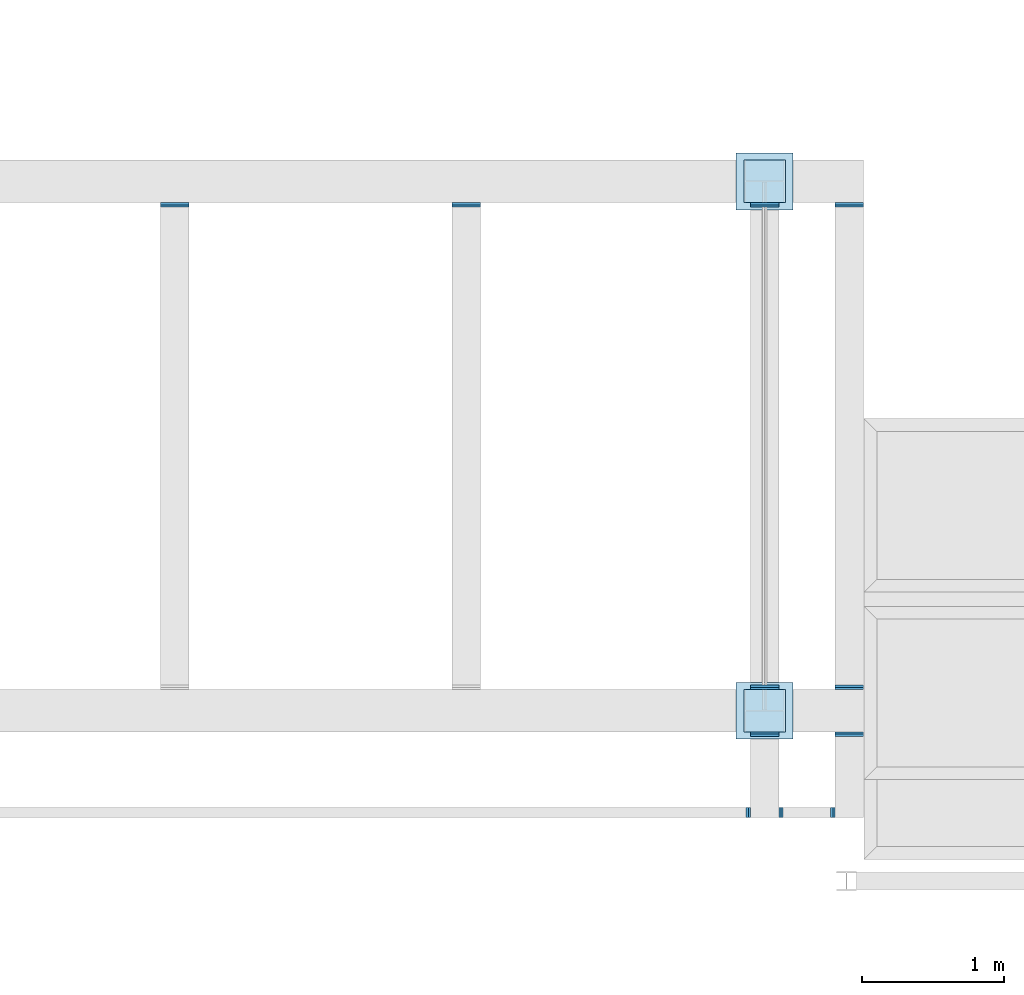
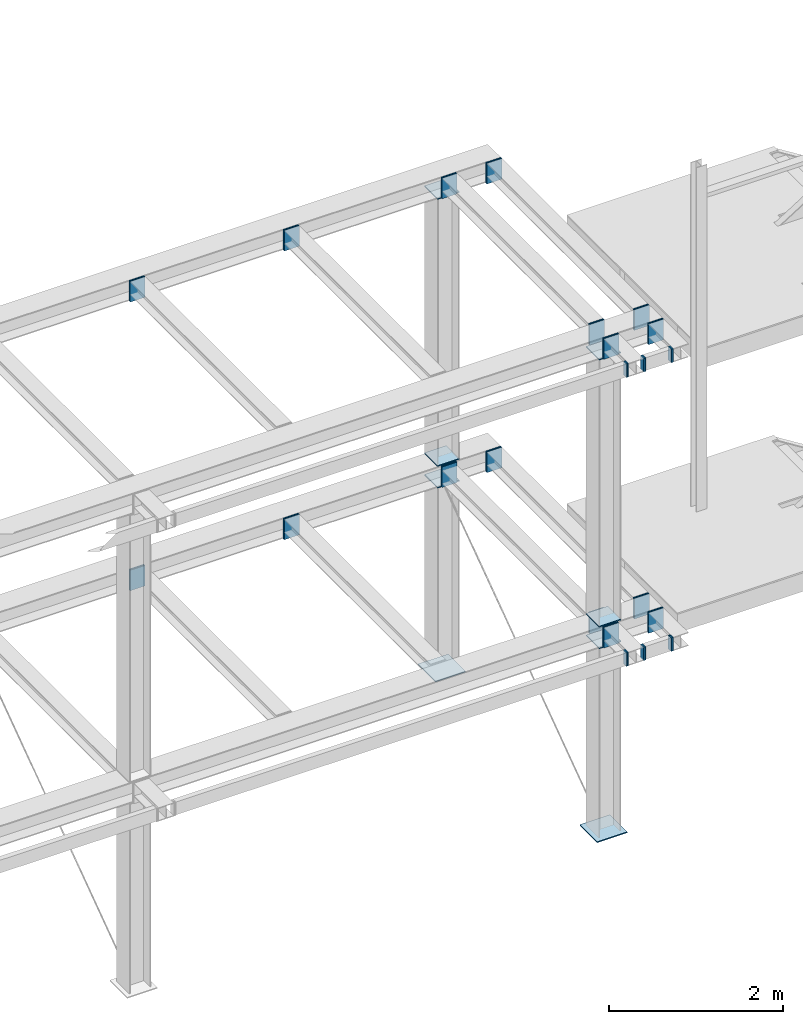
# One storey, part 16 of 24: 52 plates.
"""IFC2X3 building model written with IfcOpenShell, lengths in metres."""

from ifc_helpers import new_model, entity, si_unit, converted_unit, derived_unit, frame, origin, place, context, subcontext, project, spatial, faceted_brep, material, element, save


model = new_model("IFC2X3")

# Units and contexts
model_context = context("Model", 3, precision=1e-05, world=origin())
body_context = subcontext(model_context, "Body", "Model", "MODEL_VIEW")
ifc_project = project(units=[si_unit("LENGTHUNIT", "METRE"), si_unit("AREAUNIT", "SQUARE_METRE"), si_unit("VOLUMEUNIT", "CUBIC_METRE"), si_unit("MASSUNIT", "GRAM", prefix="KILO"), converted_unit("PLANEANGLEUNIT", "DEGREE", entity("IfcPlaneAngleMeasure", 0.0174532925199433), si_unit("PLANEANGLEUNIT", "RADIAN"), dimensions=[0, 0, 0, 0, 0, 0, 0]), derived_unit("THERMALTRANSMITTANCEUNIT", [(si_unit("POWERUNIT", "WATT"), 1), (si_unit("THERMODYNAMICTEMPERATUREUNIT", "KELVIN"), -1), (si_unit("LENGTHUNIT", "METRE"), -2)]), derived_unit("VOLUMETRICFLOWRATEUNIT", [(si_unit("LENGTHUNIT", "METRE"), 3), (converted_unit("TIMEUNIT", "hour", entity("IfcTimeMeasure", 3600.0), si_unit("TIMEUNIT", "SECOND"), dimensions=[0, 0, 1, 0, 0, 0, 0]), -1), (si_unit("LENGTHUNIT", "METRE"), -1)])], contexts=[model_context])

# Site, building, storey
site_placement = place(None, origin())
site = spatial("IfcSite", under=ifc_project, at=site_placement, Name="TWP_Speiseverteilzentrum SBW VZ II", CompositionType="ELEMENT")
building_placement = place(site_placement, origin())
building = spatial("IfcBuilding", under=site, at=building_placement, Name="Speiseverteilzentrum SBW VZ II", CompositionType="ELEMENT")
storey_placement = place(building_placement, frame((0.0, 0.0, 0.6957)))
storey = spatial("IfcBuildingStorey", under=building, at=storey_placement, Name="EG_Technik_FFB", CompositionType="ELEMENT", Elevation=0.6957)

# Plates
ifc_material_1 = material(Name="S235")
plate_1_placement = place(storey_placement, frame((55.75, 91.0349999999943, 3.34)))
element("IfcPlate", 1, at=plate_1_placement, inside=storey, material=ifc_material_1, Name="Stirnplatte", ObjectType="PLATE", context=body_context, shape_type="Brep", body=[
    faceted_brep([(0.0, 0.0, 0.0), (0.0, 0.015, 0.0), (0.0, 0.015, 0.29), (0.0, 0.0, 0.29), (0.2, 0.0, 0.0), (0.2, 0.015, 0.0), (0.2, 0.0, 0.29), (0.2, 0.015, 0.29)], [[[0, 1, 2, 3]], [[0, 4, 5, 1]], [[4, 6, 7, 5]], [[6, 3, 2, 7]], [[6, 4, 0, 3]], [[2, 1, 5, 7]]], orient=[[False], [False], [False], [False], [False], [False]]),
])
ifc_material_2 = material(Name="S235")
plate_2_placement = place(storey_placement, frame((55.75, 91.0199999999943, 3.34)))
element("IfcPlate", 2, at=plate_2_placement, inside=storey, material=ifc_material_2, Name="Stirnplatte", ObjectType="PLATE", context=body_context, shape_type="Brep", body=[
    faceted_brep([(0.0, 0.0, 0.0), (0.0, 0.015, 0.0), (0.0, 0.015, 0.29), (0.0, 0.0, 0.29), (0.2, 0.0, 0.0), (0.2, 0.015, 0.0), (0.2, 0.0, 0.29), (0.2, 0.015, 0.29)], [[[0, 1, 2, 3]], [[0, 4, 5, 1]], [[4, 6, 7, 5]], [[6, 3, 2, 7]], [[6, 4, 0, 3]], [[2, 1, 5, 7]]], orient=[[False], [False], [False], [False], [False], [False]]),
])
ifc_material_3 = material(Name="S235")
plate_3_placement = place(storey_placement, frame((55.75, 91.0349999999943, 7.4)))
element("IfcPlate", 3, at=plate_3_placement, inside=storey, material=ifc_material_3, Name="Stirnplatte", ObjectType="PLATE", context=body_context, shape_type="Brep", body=[
    faceted_brep([(0.0, 0.0, 0.0), (0.0, 0.015, 0.0), (0.0, 0.015, 0.29), (0.0, 0.0, 0.29), (0.2, 0.0, 0.0), (0.2, 0.015, 0.0), (0.2, 0.0, 0.29), (0.2, 0.015, 0.29)], [[[0, 1, 2, 3]], [[0, 4, 5, 1]], [[4, 6, 7, 5]], [[6, 3, 2, 7]], [[6, 4, 0, 3]], [[2, 1, 5, 7]]], orient=[[False], [False], [False], [False], [False], [False]]),
])
ifc_material_4 = material(Name="S235")
plate_4_placement = place(storey_placement, frame((55.75, 91.0199999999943, 7.4)))
element("IfcPlate", 4, at=plate_4_placement, inside=storey, material=ifc_material_4, Name="Stirnplatte", ObjectType="PLATE", context=body_context, shape_type="Brep", body=[
    faceted_brep([(0.0, 0.0, 0.0), (0.0, 0.015, 0.0), (0.0, 0.015, 0.29), (0.0, 0.0, 0.29), (0.2, 0.0, 0.0), (0.2, 0.015, 0.0), (0.2, 0.0, 0.29), (0.2, 0.015, 0.29)], [[[0, 1, 2, 3]], [[0, 4, 5, 1]], [[4, 6, 7, 5]], [[6, 3, 2, 7]], [[6, 4, 0, 3]], [[2, 1, 5, 7]]], orient=[[False], [False], [False], [False], [False], [False]]),
])
ifc_material_5 = material(Name="S235")
plate_5_placement = place(storey_placement, frame((57.8, 91.0349999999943, 3.34)))
element("IfcPlate", 5, at=plate_5_placement, inside=storey, material=ifc_material_5, Name="Stirnplatte", ObjectType="PLATE", context=body_context, shape_type="Brep", body=[
    faceted_brep([(0.0, 0.0, 0.0), (0.0, 0.015, 0.0), (0.0, 0.015, 0.29), (0.0, 0.0, 0.29), (0.2, 0.0, 0.0), (0.2, 0.015, 0.0), (0.2, 0.0, 0.29), (0.2, 0.015, 0.29)], [[[0, 1, 2, 3]], [[0, 4, 5, 1]], [[4, 6, 7, 5]], [[6, 3, 2, 7]], [[6, 4, 0, 3]], [[2, 1, 5, 7]]], orient=[[False], [False], [False], [False], [False], [False]]),
])
ifc_material_6 = material(Name="S235")
plate_6_placement = place(storey_placement, frame((57.8, 91.0199999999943, 3.34)))
element("IfcPlate", 6, at=plate_6_placement, inside=storey, material=ifc_material_6, Name="Stirnplatte", ObjectType="PLATE", context=body_context, shape_type="Brep", body=[
    faceted_brep([(0.0, 0.0, 0.0), (0.0, 0.015, 0.0), (0.0, 0.015, 0.29), (0.0, 0.0, 0.29), (0.2, 0.0, 0.0), (0.2, 0.015, 0.0), (0.2, 0.0, 0.29), (0.2, 0.015, 0.29)], [[[0, 1, 2, 3]], [[0, 4, 5, 1]], [[4, 6, 7, 5]], [[6, 3, 2, 7]], [[6, 4, 0, 3]], [[2, 1, 5, 7]]], orient=[[False], [False], [False], [False], [False], [False]]),
])
ifc_material_7 = material(Name="S235")
plate_7_placement = place(storey_placement, frame((57.8, 91.0349999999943, 7.4)))
element("IfcPlate", 7, at=plate_7_placement, inside=storey, material=ifc_material_7, Name="Stirnplatte", ObjectType="PLATE", context=body_context, shape_type="Brep", body=[
    faceted_brep([(0.0, 0.0, 0.0), (0.0, 0.015, 0.0), (0.0, 0.015, 0.29), (0.0, 0.0, 0.29), (0.2, 0.0, 0.0), (0.2, 0.015, 0.0), (0.2, 0.0, 0.29), (0.2, 0.015, 0.29)], [[[0, 1, 2, 3]], [[0, 4, 5, 1]], [[4, 6, 7, 5]], [[6, 3, 2, 7]], [[6, 4, 0, 3]], [[2, 1, 5, 7]]], orient=[[False], [False], [False], [False], [False], [False]]),
])
ifc_material_8 = material(Name="S235")
plate_8_placement = place(storey_placement, frame((57.8, 91.0199999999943, 7.4)))
element("IfcPlate", 8, at=plate_8_placement, inside=storey, material=ifc_material_8, Name="Stirnplatte", ObjectType="PLATE", context=body_context, shape_type="Brep", body=[
    faceted_brep([(0.0, 0.0, 0.0), (0.0, 0.015, 0.0), (0.0, 0.015, 0.29), (0.0, 0.0, 0.29), (0.2, 0.0, 0.0), (0.2, 0.015, 0.0), (0.2, 0.0, 0.29), (0.2, 0.015, 0.29)], [[[0, 1, 2, 3]], [[0, 4, 5, 1]], [[4, 6, 7, 5]], [[6, 3, 2, 7]], [[6, 4, 0, 3]], [[2, 1, 5, 7]]], orient=[[False], [False], [False], [False], [False], [False]]),
])
ifc_material_9 = material(Name="S235")
plate_9_placement = place(storey_placement, frame((59.9, 87.3099999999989, 3.34)))
element("IfcPlate", 9, at=plate_9_placement, inside=storey, material=ifc_material_9, Name="Kragarm", ObjectType="PLATE", context=body_context, shape_type="Brep", body=[
    faceted_brep([(0.0, 0.0, 0.0), (0.0, 0.015, 0.0), (0.0, 0.015, 0.29), (0.0, 0.0, 0.29), (0.2, 0.0, 0.0), (0.2, 0.015, 0.0), (0.2, 0.0, 0.29), (0.2, 0.015, 0.29)], [[[0, 1, 2, 3]], [[0, 4, 5, 1]], [[4, 6, 7, 5]], [[6, 3, 2, 7]], [[6, 4, 0, 3]], [[2, 1, 5, 7]]], orient=[[False], [False], [False], [False], [False], [False]]),
])
ifc_material_10 = material(Name="S235")
plate_10_placement = place(storey_placement, frame((59.9, 87.2949999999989, 3.34)))
element("IfcPlate", 10, at=plate_10_placement, inside=storey, material=ifc_material_10, Name="Kragarm", ObjectType="PLATE", context=body_context, shape_type="Brep", body=[
    faceted_brep([(0.0, 0.0, 0.0), (0.0, 0.015, 0.0), (0.0, 0.015, 0.29), (0.0, 0.0, 0.29), (0.2, 0.0, 0.0), (0.2, 0.015, 0.0), (0.2, 0.0, 0.29), (0.2, 0.015, 0.29)], [[[0, 1, 2, 3]], [[0, 4, 5, 1]], [[4, 6, 7, 5]], [[6, 3, 2, 7]], [[6, 4, 0, 3]], [[2, 1, 5, 7]]], orient=[[False], [False], [False], [False], [False], [False]]),
])
ifc_material_11 = material(Name="S235")
plate_11_placement = place(storey_placement, frame((59.9, 87.3099999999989, 7.4)))
element("IfcPlate", 11, at=plate_11_placement, inside=storey, material=ifc_material_11, Name="Kragarm", ObjectType="PLATE", context=body_context, shape_type="Brep", body=[
    faceted_brep([(0.0, 0.0, 0.0), (0.0, 0.015, 0.0), (0.0, 0.015, 0.29), (0.0, 0.0, 0.29), (0.2, 0.0, 0.0), (0.2, 0.015, 0.0), (0.2, 0.0, 0.29), (0.2, 0.015, 0.29)], [[[0, 1, 2, 3]], [[0, 4, 5, 1]], [[4, 6, 7, 5]], [[6, 3, 2, 7]], [[6, 4, 0, 3]], [[2, 1, 5, 7]]], orient=[[False], [False], [False], [False], [False], [False]]),
])
ifc_material_12 = material(Name="S235")
plate_12_placement = place(storey_placement, frame((59.9, 87.2949999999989, 7.4)))
element("IfcPlate", 12, at=plate_12_placement, inside=storey, material=ifc_material_12, Name="Kragarm", ObjectType="PLATE", context=body_context, shape_type="Brep", body=[
    faceted_brep([(0.0, 0.0, 0.0), (0.0, 0.015, 0.0), (0.0, 0.015, 0.29), (0.0, 0.0, 0.29), (0.2, 0.0, 0.0), (0.2, 0.015, 0.0), (0.2, 0.0, 0.29), (0.2, 0.015, 0.29)], [[[0, 1, 2, 3]], [[0, 4, 5, 1]], [[4, 6, 7, 5]], [[6, 3, 2, 7]], [[6, 4, 0, 3]], [[2, 1, 5, 7]]], orient=[[False], [False], [False], [False], [False], [False]]),
])
ifc_material_13 = material(Name="S235")
plate_13_placement = place(storey_placement, frame((59.8849999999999, 86.724999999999, 3.44)))
element("IfcPlate", 13, at=plate_13_placement, inside=storey, material=ifc_material_13, Name="Stirnplatte", ObjectType="PLATE", context=body_context, shape_type="Brep", body=[
    faceted_brep([(0.0, 0.07, 0.0), (0.015, 0.07, 0.0), (0.015, 0.07, 0.19), (0.0, 0.07, 0.19), (0.0, 0.0, 0.0), (0.015, 0.0, 0.0), (0.0, 0.0, 0.19), (0.015, 0.0, 0.19)], [[[0, 1, 2, 3]], [[0, 4, 5, 1]], [[4, 6, 7, 5]], [[6, 3, 2, 7]], [[6, 4, 0, 3]], [[2, 1, 5, 7]]], orient=[[False], [False], [False], [False], [False], [False]]),
])
ifc_material_14 = material(Name="S235")
plate_14_placement = place(storey_placement, frame((59.8699999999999, 86.724999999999, 3.44)))
element("IfcPlate", 14, at=plate_14_placement, inside=storey, material=ifc_material_14, Name="Stirnplatte", ObjectType="PLATE", context=body_context, shape_type="Brep", body=[
    faceted_brep([(0.0, 0.07, 0.0), (0.015, 0.07, 0.0), (0.015, 0.07, 0.19), (0.0, 0.07, 0.19), (0.0, 0.0, 0.0), (0.015, 0.0, 0.0), (0.0, 0.0, 0.19), (0.015, 0.0, 0.19)], [[[0, 1, 2, 3]], [[0, 4, 5, 1]], [[4, 6, 7, 5]], [[6, 3, 2, 7]], [[6, 4, 0, 3]], [[2, 1, 5, 7]]], orient=[[False], [False], [False], [False], [False], [False]]),
])
ifc_material_15 = material(Name="S235")
plate_15_placement = place(storey_placement, frame((59.8849999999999, 86.7249999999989, 7.5)))
element("IfcPlate", 15, at=plate_15_placement, inside=storey, material=ifc_material_15, Name="Stirnplatte", ObjectType="PLATE", context=body_context, shape_type="Brep", body=[
    faceted_brep([(0.0, 0.07, 0.0), (0.015, 0.07, 0.0), (0.015, 0.07, 0.19), (0.0, 0.07, 0.19), (0.0, 0.0, 0.0), (0.015, 0.0, 0.0), (0.0, 0.0, 0.19), (0.015, 0.0, 0.19)], [[[0, 1, 2, 3]], [[0, 4, 5, 1]], [[4, 6, 7, 5]], [[6, 3, 2, 7]], [[6, 4, 0, 3]], [[2, 1, 5, 7]]], orient=[[False], [False], [False], [False], [False], [False]]),
])
ifc_material_16 = material(Name="S235")
plate_16_placement = place(storey_placement, frame((59.8699999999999, 86.7249999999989, 7.5)))
element("IfcPlate", 16, at=plate_16_placement, inside=storey, material=ifc_material_16, Name="Stirnplatte", ObjectType="PLATE", context=body_context, shape_type="Brep", body=[
    faceted_brep([(0.0, 0.07, 0.0), (0.015, 0.07, 0.0), (0.015, 0.07, 0.19), (0.0, 0.07, 0.19), (0.0, 0.0, 0.0), (0.015, 0.0, 0.0), (0.0, 0.0, 0.19), (0.015, 0.0, 0.19)], [[[0, 1, 2, 3]], [[0, 4, 5, 1]], [[4, 6, 7, 5]], [[6, 3, 2, 7]], [[6, 4, 0, 3]], [[2, 1, 5, 7]]], orient=[[False], [False], [False], [False], [False], [False]]),
])
ifc_material_17 = material(Name="S235")
plate_17_placement = place(storey_placement, frame((60.115, 86.7249999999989, 3.44)))
element("IfcPlate", 17, at=plate_17_placement, inside=storey, material=ifc_material_17, Name="Stirnplatte", ObjectType="PLATE", context=body_context, shape_type="Brep", body=[
    faceted_brep([(0.0, 0.07, 0.0), (0.015, 0.07, 0.0), (0.015, 0.07, 0.19), (0.0, 0.07, 0.19), (0.0, 0.0, 0.0), (0.015, 0.0, 0.0), (0.0, 0.0, 0.19), (0.015, 0.0, 0.19)], [[[0, 1, 2, 3]], [[0, 4, 5, 1]], [[4, 6, 7, 5]], [[6, 3, 2, 7]], [[6, 4, 0, 3]], [[2, 1, 5, 7]]], orient=[[False], [False], [False], [False], [False], [False]]),
])
ifc_material_18 = material(Name="S235")
plate_18_placement = place(storey_placement, frame((60.1, 86.7249999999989, 3.44)))
element("IfcPlate", 18, at=plate_18_placement, inside=storey, material=ifc_material_18, Name="Stirnplatte", ObjectType="PLATE", context=body_context, shape_type="Brep", body=[
    faceted_brep([(0.0, 0.07, 0.0), (0.015, 0.07, 0.0), (0.015, 0.07, 0.19), (0.0, 0.07, 0.19), (0.0, 0.0, 0.0), (0.015, 0.0, 0.0), (0.0, 0.0, 0.19), (0.015, 0.0, 0.19)], [[[0, 1, 2, 3]], [[0, 4, 5, 1]], [[4, 6, 7, 5]], [[6, 3, 2, 7]], [[6, 4, 0, 3]], [[2, 1, 5, 7]]], orient=[[False], [False], [False], [False], [False], [False]]),
])
ifc_material_19 = material(Name="S235")
plate_19_placement = place(storey_placement, frame((60.115, 86.7249999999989, 7.5)))
element("IfcPlate", 19, at=plate_19_placement, inside=storey, material=ifc_material_19, Name="Stirnplatte", ObjectType="PLATE", context=body_context, shape_type="Brep", body=[
    faceted_brep([(0.0, 0.07, 0.0), (0.015, 0.07, 0.0), (0.015, 0.07, 0.19), (0.0, 0.07, 0.19), (0.0, 0.0, 0.0), (0.015, 0.0, 0.0), (0.0, 0.0, 0.19), (0.015, 0.0, 0.19)], [[[0, 1, 2, 3]], [[0, 4, 5, 1]], [[4, 6, 7, 5]], [[6, 3, 2, 7]], [[6, 4, 0, 3]], [[2, 1, 5, 7]]], orient=[[False], [False], [False], [False], [False], [False]]),
])
ifc_material_20 = material(Name="S235")
plate_20_placement = place(storey_placement, frame((60.1, 86.7249999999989, 7.5)))
element("IfcPlate", 20, at=plate_20_placement, inside=storey, material=ifc_material_20, Name="Stirnplatte", ObjectType="PLATE", context=body_context, shape_type="Brep", body=[
    faceted_brep([(0.0, 0.07, 0.0), (0.015, 0.07, 0.0), (0.015, 0.07, 0.19), (0.0, 0.07, 0.19), (0.0, 0.0, 0.0), (0.015, 0.0, 0.0), (0.0, 0.0, 0.19), (0.015, 0.0, 0.19)], [[[0, 1, 2, 3]], [[0, 4, 5, 1]], [[4, 6, 7, 5]], [[6, 3, 2, 7]], [[6, 4, 0, 3]], [[2, 1, 5, 7]]], orient=[[False], [False], [False], [False], [False], [False]]),
])
ifc_material_21 = material(Name="S235")
plate_21_placement = place(storey_placement, frame((59.9, 87.6249999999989, 7.4)))
element("IfcPlate", 21, at=plate_21_placement, inside=storey, material=ifc_material_21, Name="Stirnplatte", context=body_context, shape_type="Brep", body=[
    faceted_brep([(0.2, 0.015, 0.0), (0.2, 0.0, 0.0), (0.2, 0.0, 0.29), (0.2, 0.015, 0.29), (0.0, 0.015, 0.0), (0.0, 0.0, 0.0), (0.0, 0.015, 0.29), (0.0, 0.0, 0.29)], [[[0, 1, 2, 3]], [[0, 4, 5, 1]], [[4, 6, 7, 5]], [[6, 3, 2, 7]], [[6, 4, 0, 3]], [[2, 1, 5, 7]]], orient=[[False], [False], [False], [False], [False], [False]]),
])
ifc_material_22 = material(Name="S235")
plate_22_placement = place(storey_placement, frame((59.9, 87.6399999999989, 7.4)))
element("IfcPlate", 22, at=plate_22_placement, inside=storey, material=ifc_material_22, Name="Stirnplatte", context=body_context, shape_type="Brep", body=[
    faceted_brep([(0.2, 0.015, 0.0), (0.2, 0.0, 0.0), (0.2, 0.0, 0.29), (0.2, 0.015, 0.29), (0.0, 0.015, 0.0), (0.0, 0.0, 0.0), (0.0, 0.015, 0.29), (0.0, 0.0, 0.29)], [[[0, 1, 2, 3]], [[0, 4, 5, 1]], [[4, 6, 7, 5]], [[6, 3, 2, 7]], [[6, 4, 0, 3]], [[2, 1, 5, 7]]], orient=[[False], [False], [False], [False], [False], [False]]),
])
ifc_material_23 = material(Name="S235")
plate_23_placement = place(storey_placement, frame((59.9, 91.0199999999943, 7.4)))
element("IfcPlate", 23, at=plate_23_placement, inside=storey, material=ifc_material_23, Name="Stirnplatte", context=body_context, shape_type="Brep", body=[
    faceted_brep([(0.2, 0.015, 0.0), (0.2, 0.0, 0.0), (0.2, 0.0, 0.29), (0.2, 0.015, 0.29), (0.0, 0.015, 0.0), (0.0, 0.0, 0.0), (0.0, 0.015, 0.29), (0.0, 0.0, 0.29)], [[[0, 1, 2, 3]], [[0, 4, 5, 1]], [[4, 6, 7, 5]], [[6, 3, 2, 7]], [[6, 4, 0, 3]], [[2, 1, 5, 7]]], orient=[[False], [False], [False], [False], [False], [False]]),
])
ifc_material_24 = material(Name="S235")
plate_24_placement = place(storey_placement, frame((59.9, 91.0349999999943, 7.4)))
element("IfcPlate", 24, at=plate_24_placement, inside=storey, material=ifc_material_24, Name="Stirnplatte", context=body_context, shape_type="Brep", body=[
    faceted_brep([(0.2, 0.015, 0.0), (0.2, 0.0, 0.0), (0.2, 0.0, 0.29), (0.2, 0.015, 0.29), (0.0, 0.015, 0.0), (0.0, 0.0, 0.0), (0.0, 0.015, 0.29), (0.0, 0.0, 0.29)], [[[0, 1, 2, 3]], [[0, 4, 5, 1]], [[4, 6, 7, 5]], [[6, 3, 2, 7]], [[6, 4, 0, 3]], [[2, 1, 5, 7]]], orient=[[False], [False], [False], [False], [False], [False]]),
])
ifc_material_25 = material(Name="S235")
plate_25_placement = place(storey_placement, frame((59.9, 87.6399999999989, 3.34)))
element("IfcPlate", 25, at=plate_25_placement, inside=storey, material=ifc_material_25, Name="Stirnplatte", ObjectType="PLATE", context=body_context, shape_type="Brep", body=[
    faceted_brep([(0.2, 0.015, 0.0), (0.2, 0.0, 0.0), (0.2, 0.0, 0.29), (0.2, 0.015, 0.29), (0.0, 0.015, 0.0), (0.0, 0.0, 0.0), (0.0, 0.015, 0.29), (0.0, 0.0, 0.29)], [[[0, 1, 2, 3]], [[0, 4, 5, 1]], [[4, 6, 7, 5]], [[6, 3, 2, 7]], [[6, 4, 0, 3]], [[2, 1, 5, 7]]], orient=[[False], [False], [False], [False], [False], [False]]),
])
ifc_material_26 = material(Name="S235")
plate_26_placement = place(storey_placement, frame((59.9, 87.6249999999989, 3.34)))
element("IfcPlate", 26, at=plate_26_placement, inside=storey, material=ifc_material_26, Name="Stirnplatte", ObjectType="PLATE", context=body_context, shape_type="Brep", body=[
    faceted_brep([(0.2, 0.015, 0.0), (0.2, 0.0, 0.0), (0.2, 0.0, 0.29), (0.2, 0.015, 0.29), (0.0, 0.015, 0.0), (0.0, 0.0, 0.0), (0.0, 0.015, 0.29), (0.0, 0.0, 0.29)], [[[0, 1, 2, 3]], [[0, 4, 5, 1]], [[4, 6, 7, 5]], [[6, 3, 2, 7]], [[6, 4, 0, 3]], [[2, 1, 5, 7]]], orient=[[False], [False], [False], [False], [False], [False]]),
])
ifc_material_27 = material(Name="S235")
plate_27_placement = place(storey_placement, frame((59.9, 91.0349999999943, 3.34)))
element("IfcPlate", 27, at=plate_27_placement, inside=storey, material=ifc_material_27, Name="Stirnplatte", ObjectType="PLATE", context=body_context, shape_type="Brep", body=[
    faceted_brep([(0.2, 0.015, 0.0), (0.2, 0.0, 0.0), (0.2, 0.0, 0.29), (0.2, 0.015, 0.29), (0.0, 0.015, 0.0), (0.0, 0.0, 0.0), (0.0, 0.015, 0.29), (0.0, 0.0, 0.29)], [[[0, 1, 2, 3]], [[0, 4, 5, 1]], [[4, 6, 7, 5]], [[6, 3, 2, 7]], [[6, 4, 0, 3]], [[2, 1, 5, 7]]], orient=[[False], [False], [False], [False], [False], [False]]),
])
ifc_material_28 = material(Name="S235")
plate_28_placement = place(storey_placement, frame((59.9, 91.0199999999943, 3.34)))
element("IfcPlate", 28, at=plate_28_placement, inside=storey, material=ifc_material_28, Name="Stirnplatte", ObjectType="PLATE", context=body_context, shape_type="Brep", body=[
    faceted_brep([(0.2, 0.015, 0.0), (0.2, 0.0, 0.0), (0.2, 0.0, 0.29), (0.2, 0.015, 0.29), (0.0, 0.015, 0.0), (0.0, 0.0, 0.0), (0.0, 0.015, 0.29), (0.0, 0.0, 0.29)], [[[0, 1, 2, 3]], [[0, 4, 5, 1]], [[4, 6, 7, 5]], [[6, 3, 2, 7]], [[6, 4, 0, 3]], [[2, 1, 5, 7]]], orient=[[False], [False], [False], [False], [False], [False]]),
])
ifc_material_29 = material(Name="S235")
plate_29_placement = place(storey_placement, frame((59.8, 87.2749999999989, 0.649699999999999)))
element("IfcPlate", 29, at=plate_29_placement, inside=storey, material=ifc_material_29, Name="Fußplatte", ObjectType="PLATE", context=body_context, shape_type="Brep", body=[
    faceted_brep([(0.0, 0.4, 0.0), (0.0, 0.4, 0.015), (0.4, 0.4, 0.015), (0.4, 0.4, 0.0), (0.0, 0.0, 0.0), (0.0, 0.0, 0.015), (0.4, 0.0, 0.0), (0.4, 0.0, 0.015)], [[[0, 1, 2, 3]], [[0, 4, 5, 1]], [[4, 6, 7, 5]], [[6, 3, 2, 7]], [[6, 4, 0, 3]], [[2, 1, 5, 7]]], orient=[[False], [False], [False], [False], [False], [False]]),
])
ifc_material_30 = material(Name="S235")
plate_30_placement = place(storey_placement, frame((59.8, 90.9999999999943, 0.649699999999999)))
element("IfcPlate", 30, at=plate_30_placement, inside=storey, material=ifc_material_30, Name="Fußplatte", ObjectType="PLATE", context=body_context, shape_type="Brep", body=[
    faceted_brep([(0.0, 0.4, 0.0), (0.0, 0.4, 0.015), (0.4, 0.4, 0.015), (0.4, 0.4, 0.0), (0.0, 0.0, 0.0), (0.0, 0.0, 0.015), (0.4, 0.0, 0.0), (0.4, 0.0, 0.015)], [[[0, 1, 2, 3]], [[0, 4, 5, 1]], [[4, 6, 7, 5]], [[6, 3, 2, 7]], [[6, 4, 0, 3]], [[2, 1, 5, 7]]], orient=[[False], [False], [False], [False], [False], [False]]),
])
ifc_material_31 = material(Name="S235")
plate_31_placement = place(storey_placement, frame((59.855, 87.3249999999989, 3.325)))
element("IfcPlate", 31, at=plate_31_placement, inside=storey, material=ifc_material_31, Name="Kopfplatte", ObjectType="PLATE", context=body_context, shape_type="Brep", body=[
    faceted_brep([(0.29, 0.0, 0.015), (0.29, 0.0, 0.0), (0.29, 0.3, 0.0), (0.29, 0.3, 0.015), (0.0, 0.0, 0.015), (0.0, 0.0, 0.0), (0.0, 0.3, 0.015), (0.0, 0.3, 0.0)], [[[0, 1, 2, 3]], [[0, 4, 5, 1]], [[4, 6, 7, 5]], [[6, 3, 2, 7]], [[6, 4, 0, 3]], [[2, 1, 5, 7]]], orient=[[False], [False], [False], [False], [False], [False]]),
])
ifc_material_32 = material(Name="S235")
plate_32_placement = place(storey_placement, frame((59.855, 91.0499999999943, 3.325)))
element("IfcPlate", 32, at=plate_32_placement, inside=storey, material=ifc_material_32, Name="Kopfplatte", ObjectType="PLATE", context=body_context, shape_type="Brep", body=[
    faceted_brep([(0.29, 0.0, 0.015), (0.29, 0.0, 0.0), (0.29, 0.3, 0.0), (0.29, 0.3, 0.015), (0.0, 0.0, 0.015), (0.0, 0.0, 0.0), (0.0, 0.3, 0.015), (0.0, 0.3, 0.0)], [[[0, 1, 2, 3]], [[0, 4, 5, 1]], [[4, 6, 7, 5]], [[6, 3, 2, 7]], [[6, 4, 0, 3]], [[2, 1, 5, 7]]], orient=[[False], [False], [False], [False], [False], [False]]),
])
ifc_material_33 = material(Name="S235")
plate_33_placement = place(storey_placement, frame((59.855, 87.3249999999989, 3.63)))
element("IfcPlate", 33, at=plate_33_placement, inside=storey, material=ifc_material_33, Name="Fußplatte", ObjectType="PLATE", context=body_context, shape_type="Brep", body=[
    faceted_brep([(0.29, 0.0, 0.015), (0.29, 0.0, 0.0), (0.29, 0.3, 0.0), (0.29, 0.3, 0.015), (0.0, 0.0, 0.015), (0.0, 0.0, 0.0), (0.0, 0.3, 0.015), (0.0, 0.3, 0.0)], [[[0, 1, 2, 3]], [[0, 4, 5, 1]], [[4, 6, 7, 5]], [[6, 3, 2, 7]], [[6, 4, 0, 3]], [[2, 1, 5, 7]]], orient=[[False], [False], [False], [False], [False], [False]]),
])
ifc_material_34 = material(Name="S235")
plate_34_placement = place(storey_placement, frame((59.855, 91.0499999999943, 3.63)))
element("IfcPlate", 34, at=plate_34_placement, inside=storey, material=ifc_material_34, Name="Fußplatte", ObjectType="PLATE", context=body_context, shape_type="Brep", body=[
    faceted_brep([(0.29, 0.0, 0.015), (0.29, 0.0, 0.0), (0.29, 0.3, 0.0), (0.29, 0.3, 0.015), (0.0, 0.0, 0.015), (0.0, 0.0, 0.0), (0.0, 0.3, 0.015), (0.0, 0.3, 0.0)], [[[0, 1, 2, 3]], [[0, 4, 5, 1]], [[4, 6, 7, 5]], [[6, 3, 2, 7]], [[6, 4, 0, 3]], [[2, 1, 5, 7]]], orient=[[False], [False], [False], [False], [False], [False]]),
])
ifc_material_35 = material(Name="S235")
plate_35_placement = place(storey_placement, frame((59.855, 87.3249999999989, 7.385)))
element("IfcPlate", 35, at=plate_35_placement, inside=storey, material=ifc_material_35, Name="Kopfplatte", ObjectType="PLATE", context=body_context, shape_type="Brep", body=[
    faceted_brep([(0.29, 0.0, 0.015), (0.29, 0.0, 0.0), (0.29, 0.3, 0.0), (0.29, 0.3, 0.015), (0.0, 0.0, 0.015), (0.0, 0.0, 0.0), (0.0, 0.3, 0.015), (0.0, 0.3, 0.0)], [[[0, 1, 2, 3]], [[0, 4, 5, 1]], [[4, 6, 7, 5]], [[6, 3, 2, 7]], [[6, 4, 0, 3]], [[2, 1, 5, 7]]], orient=[[False], [False], [False], [False], [False], [False]]),
])
ifc_material_36 = material(Name="S235")
plate_36_placement = place(storey_placement, frame((59.855, 91.0499999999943, 7.385)))
element("IfcPlate", 36, at=plate_36_placement, inside=storey, material=ifc_material_36, Name="Kopfplatte", ObjectType="PLATE", context=body_context, shape_type="Brep", body=[
    faceted_brep([(0.29, 0.0, 0.015), (0.29, 0.0, 0.0), (0.29, 0.3, 0.0), (0.29, 0.3, 0.015), (0.0, 0.0, 0.015), (0.0, 0.0, 0.0), (0.0, 0.3, 0.015), (0.0, 0.3, 0.0)], [[[0, 1, 2, 3]], [[0, 4, 5, 1]], [[4, 6, 7, 5]], [[6, 3, 2, 7]], [[6, 4, 0, 3]], [[2, 1, 5, 7]]], orient=[[False], [False], [False], [False], [False], [False]]),
])
ifc_material_37 = material(Name="S235")
plate_37_placement = place(storey_placement, frame((60.4949999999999, 87.6399999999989, 3.34)))
element("IfcPlate", 37, at=plate_37_placement, inside=storey, material=ifc_material_37, Name="Stirnplatte", ObjectType="PLATE", context=body_context, shape_type="Brep", body=[
    faceted_brep([(0.0, 0.0, 0.0), (0.0, 0.015, 0.0), (0.0, 0.015, 0.29), (0.0, 0.0, 0.29), (0.2, 0.0, 0.0), (0.2, 0.015, 0.0), (0.2, 0.0, 0.29), (0.2, 0.015, 0.29)], [[[0, 1, 2, 3]], [[0, 4, 5, 1]], [[4, 6, 7, 5]], [[6, 3, 2, 7]], [[6, 4, 0, 3]], [[2, 1, 5, 7]]], orient=[[False], [False], [False], [False], [False], [False]]),
])
ifc_material_38 = material(Name="S235")
plate_38_placement = place(storey_placement, frame((60.4949999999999, 87.6249999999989, 3.34)))
element("IfcPlate", 38, at=plate_38_placement, inside=storey, material=ifc_material_38, Name="Stirnplatte", ObjectType="PLATE", context=body_context, shape_type="Brep", body=[
    faceted_brep([(0.0, 0.0, 0.0), (0.0, 0.015, 0.0), (0.0, 0.015, 0.29), (0.0, 0.0, 0.29), (0.2, 0.0, 0.0), (0.2, 0.015, 0.0), (0.2, 0.0, 0.29), (0.2, 0.015, 0.29)], [[[0, 1, 2, 3]], [[0, 4, 5, 1]], [[4, 6, 7, 5]], [[6, 3, 2, 7]], [[6, 4, 0, 3]], [[2, 1, 5, 7]]], orient=[[False], [False], [False], [False], [False], [False]]),
])
ifc_material_39 = material(Name="S235")
plate_39_placement = place(storey_placement, frame((60.4949999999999, 87.6399999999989, 7.4)))
element("IfcPlate", 39, at=plate_39_placement, inside=storey, material=ifc_material_39, Name="Stirnplatte", ObjectType="PLATE", context=body_context, shape_type="Brep", body=[
    faceted_brep([(0.0, 0.0, 0.0), (0.0, 0.015, 0.0), (0.0, 0.015, 0.29), (0.0, 0.0, 0.29), (0.2, 0.0, 0.0), (0.2, 0.015, 0.0), (0.2, 0.0, 0.29), (0.2, 0.015, 0.29)], [[[0, 1, 2, 3]], [[0, 4, 5, 1]], [[4, 6, 7, 5]], [[6, 3, 2, 7]], [[6, 4, 0, 3]], [[2, 1, 5, 7]]], orient=[[False], [False], [False], [False], [False], [False]]),
])
ifc_material_40 = material(Name="S235")
plate_40_placement = place(storey_placement, frame((60.4949999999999, 87.6249999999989, 7.4)))
element("IfcPlate", 40, at=plate_40_placement, inside=storey, material=ifc_material_40, Name="Stirnplatte", ObjectType="PLATE", context=body_context, shape_type="Brep", body=[
    faceted_brep([(0.0, 0.0, 0.0), (0.0, 0.015, 0.0), (0.0, 0.015, 0.29), (0.0, 0.0, 0.29), (0.2, 0.0, 0.0), (0.2, 0.015, 0.0), (0.2, 0.0, 0.29), (0.2, 0.015, 0.29)], [[[0, 1, 2, 3]], [[0, 4, 5, 1]], [[4, 6, 7, 5]], [[6, 3, 2, 7]], [[6, 4, 0, 3]], [[2, 1, 5, 7]]], orient=[[False], [False], [False], [False], [False], [False]]),
])
ifc_material_41 = material(Name="S235")
plate_41_placement = place(storey_placement, frame((60.495, 91.0349999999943, 3.34)))
element("IfcPlate", 41, at=plate_41_placement, inside=storey, material=ifc_material_41, Name="Stirnplatte", ObjectType="PLATE", context=body_context, shape_type="Brep", body=[
    faceted_brep([(0.0, 0.0, 0.0), (0.0, 0.015, 0.0), (0.0, 0.015, 0.29), (0.0, 0.0, 0.29), (0.2, 0.0, 0.0), (0.2, 0.015, 0.0), (0.2, 0.0, 0.29), (0.2, 0.015, 0.29)], [[[0, 1, 2, 3]], [[0, 4, 5, 1]], [[4, 6, 7, 5]], [[6, 3, 2, 7]], [[6, 4, 0, 3]], [[2, 1, 5, 7]]], orient=[[False], [False], [False], [False], [False], [False]]),
])
ifc_material_42 = material(Name="S235")
plate_42_placement = place(storey_placement, frame((60.495, 91.0199999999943, 3.34)))
element("IfcPlate", 42, at=plate_42_placement, inside=storey, material=ifc_material_42, Name="Stirnplatte", ObjectType="PLATE", context=body_context, shape_type="Brep", body=[
    faceted_brep([(0.0, 0.0, 0.0), (0.0, 0.015, 0.0), (0.0, 0.015, 0.29), (0.0, 0.0, 0.29), (0.2, 0.0, 0.0), (0.2, 0.015, 0.0), (0.2, 0.0, 0.29), (0.2, 0.015, 0.29)], [[[0, 1, 2, 3]], [[0, 4, 5, 1]], [[4, 6, 7, 5]], [[6, 3, 2, 7]], [[6, 4, 0, 3]], [[2, 1, 5, 7]]], orient=[[False], [False], [False], [False], [False], [False]]),
])
ifc_material_43 = material(Name="S235")
plate_43_placement = place(storey_placement, frame((60.495, 91.0349999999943, 7.4)))
element("IfcPlate", 43, at=plate_43_placement, inside=storey, material=ifc_material_43, Name="Stirnplatte", ObjectType="PLATE", context=body_context, shape_type="Brep", body=[
    faceted_brep([(0.0, 0.0, 0.0), (0.0, 0.015, 0.0), (0.0, 0.015, 0.29), (0.0, 0.0, 0.29), (0.2, 0.0, 0.0), (0.2, 0.015, 0.0), (0.2, 0.0, 0.29), (0.2, 0.015, 0.29)], [[[0, 1, 2, 3]], [[0, 4, 5, 1]], [[4, 6, 7, 5]], [[6, 3, 2, 7]], [[6, 4, 0, 3]], [[2, 1, 5, 7]]], orient=[[False], [False], [False], [False], [False], [False]]),
])
ifc_material_44 = material(Name="S235")
plate_44_placement = place(storey_placement, frame((60.495, 91.0199999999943, 7.4)))
element("IfcPlate", 44, at=plate_44_placement, inside=storey, material=ifc_material_44, Name="Stirnplatte", ObjectType="PLATE", context=body_context, shape_type="Brep", body=[
    faceted_brep([(0.0, 0.0, 0.0), (0.0, 0.015, 0.0), (0.0, 0.015, 0.29), (0.0, 0.0, 0.29), (0.2, 0.0, 0.0), (0.2, 0.015, 0.0), (0.2, 0.0, 0.29), (0.2, 0.015, 0.29)], [[[0, 1, 2, 3]], [[0, 4, 5, 1]], [[4, 6, 7, 5]], [[6, 3, 2, 7]], [[6, 4, 0, 3]], [[2, 1, 5, 7]]], orient=[[False], [False], [False], [False], [False], [False]]),
])
ifc_material_45 = material(Name="S235")
plate_45_placement = place(storey_placement, frame((60.4949999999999, 87.3099999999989, 3.34)))
element("IfcPlate", 45, at=plate_45_placement, inside=storey, material=ifc_material_45, Name="Kragarm", ObjectType="PLATE", context=body_context, shape_type="Brep", body=[
    faceted_brep([(0.0, 0.0, 0.0), (0.0, 0.015, 0.0), (0.0, 0.015, 0.29), (0.0, 0.0, 0.29), (0.2, 0.0, 0.0), (0.2, 0.015, 0.0), (0.2, 0.0, 0.29), (0.2, 0.015, 0.29)], [[[0, 1, 2, 3]], [[0, 4, 5, 1]], [[4, 6, 7, 5]], [[6, 3, 2, 7]], [[6, 4, 0, 3]], [[2, 1, 5, 7]]], orient=[[False], [False], [False], [False], [False], [False]]),
])
ifc_material_46 = material(Name="S235")
plate_46_placement = place(storey_placement, frame((60.4949999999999, 87.2949999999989, 3.34)))
element("IfcPlate", 46, at=plate_46_placement, inside=storey, material=ifc_material_46, Name="Kragarm", ObjectType="PLATE", context=body_context, shape_type="Brep", body=[
    faceted_brep([(0.0, 0.0, 0.0), (0.0, 0.015, 0.0), (0.0, 0.015, 0.29), (0.0, 0.0, 0.29), (0.2, 0.0, 0.0), (0.2, 0.015, 0.0), (0.2, 0.0, 0.29), (0.2, 0.015, 0.29)], [[[0, 1, 2, 3]], [[0, 4, 5, 1]], [[4, 6, 7, 5]], [[6, 3, 2, 7]], [[6, 4, 0, 3]], [[2, 1, 5, 7]]], orient=[[False], [False], [False], [False], [False], [False]]),
])
ifc_material_47 = material(Name="S235")
plate_47_placement = place(storey_placement, frame((60.4949999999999, 87.3099999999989, 7.4)))
element("IfcPlate", 47, at=plate_47_placement, inside=storey, material=ifc_material_47, Name="Kragarm", ObjectType="PLATE", context=body_context, shape_type="Brep", body=[
    faceted_brep([(0.0, 0.0, 0.0), (0.0, 0.015, 0.0), (0.0, 0.015, 0.29), (0.0, 0.0, 0.29), (0.2, 0.0, 0.0), (0.2, 0.015, 0.0), (0.2, 0.0, 0.29), (0.2, 0.015, 0.29)], [[[0, 1, 2, 3]], [[0, 4, 5, 1]], [[4, 6, 7, 5]], [[6, 3, 2, 7]], [[6, 4, 0, 3]], [[2, 1, 5, 7]]], orient=[[False], [False], [False], [False], [False], [False]]),
])
ifc_material_48 = material(Name="S235")
plate_48_placement = place(storey_placement, frame((60.4949999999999, 87.2949999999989, 7.4)))
element("IfcPlate", 48, at=plate_48_placement, inside=storey, material=ifc_material_48, Name="Kragarm", ObjectType="PLATE", context=body_context, shape_type="Brep", body=[
    faceted_brep([(0.0, 0.0, 0.0), (0.0, 0.015, 0.0), (0.0, 0.015, 0.29), (0.0, 0.0, 0.29), (0.2, 0.0, 0.0), (0.2, 0.015, 0.0), (0.2, 0.0, 0.29), (0.2, 0.015, 0.29)], [[[0, 1, 2, 3]], [[0, 4, 5, 1]], [[4, 6, 7, 5]], [[6, 3, 2, 7]], [[6, 4, 0, 3]], [[2, 1, 5, 7]]], orient=[[False], [False], [False], [False], [False], [False]]),
])
ifc_material_49 = material(Name="S235")
plate_49_placement = place(storey_placement, frame((60.4799999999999, 86.724999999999, 3.44)))
element("IfcPlate", 49, at=plate_49_placement, inside=storey, material=ifc_material_49, Name="Stirnplatte", ObjectType="PLATE", context=body_context, shape_type="Brep", body=[
    faceted_brep([(0.0, 0.07, 0.0), (0.015, 0.07, 0.0), (0.015, 0.07, 0.19), (0.0, 0.07, 0.19), (0.0, 0.0, 0.0), (0.015, 0.0, 0.0), (0.0, 0.0, 0.19), (0.015, 0.0, 0.19)], [[[0, 1, 2, 3]], [[0, 4, 5, 1]], [[4, 6, 7, 5]], [[6, 3, 2, 7]], [[6, 4, 0, 3]], [[2, 1, 5, 7]]], orient=[[False], [False], [False], [False], [False], [False]]),
])
ifc_material_50 = material(Name="S235")
plate_50_placement = place(storey_placement, frame((60.465, 86.724999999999, 3.44)))
element("IfcPlate", 50, at=plate_50_placement, inside=storey, material=ifc_material_50, Name="Stirnplatte", ObjectType="PLATE", context=body_context, shape_type="Brep", body=[
    faceted_brep([(0.0, 0.07, 0.0), (0.015, 0.07, 0.0), (0.015, 0.07, 0.19), (0.0, 0.07, 0.19), (0.0, 0.0, 0.0), (0.015, 0.0, 0.0), (0.0, 0.0, 0.19), (0.015, 0.0, 0.19)], [[[0, 1, 2, 3]], [[0, 4, 5, 1]], [[4, 6, 7, 5]], [[6, 3, 2, 7]], [[6, 4, 0, 3]], [[2, 1, 5, 7]]], orient=[[False], [False], [False], [False], [False], [False]]),
])
ifc_material_51 = material(Name="S235")
plate_51_placement = place(storey_placement, frame((60.4799999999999, 86.7249999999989, 7.5)))
element("IfcPlate", 51, at=plate_51_placement, inside=storey, material=ifc_material_51, Name="Stirnplatte", ObjectType="PLATE", context=body_context, shape_type="Brep", body=[
    faceted_brep([(0.0, 0.07, 0.0), (0.015, 0.07, 0.0), (0.015, 0.07, 0.19), (0.0, 0.07, 0.19), (0.0, 0.0, 0.0), (0.015, 0.0, 0.0), (0.0, 0.0, 0.19), (0.015, 0.0, 0.19)], [[[0, 1, 2, 3]], [[0, 4, 5, 1]], [[4, 6, 7, 5]], [[6, 3, 2, 7]], [[6, 4, 0, 3]], [[2, 1, 5, 7]]], orient=[[False], [False], [False], [False], [False], [False]]),
])
ifc_material_52 = material(Name="S235")
plate_52_placement = place(storey_placement, frame((60.465, 86.7249999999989, 7.5)))
element("IfcPlate", 52, at=plate_52_placement, inside=storey, material=ifc_material_52, Name="Stirnplatte", ObjectType="PLATE", context=body_context, shape_type="Brep", body=[
    faceted_brep([(0.0, 0.07, 0.0), (0.015, 0.07, 0.0), (0.015, 0.07, 0.19), (0.0, 0.07, 0.19), (0.0, 0.0, 0.0), (0.015, 0.0, 0.0), (0.0, 0.0, 0.19), (0.015, 0.0, 0.19)], [[[0, 1, 2, 3]], [[0, 4, 5, 1]], [[4, 6, 7, 5]], [[6, 3, 2, 7]], [[6, 4, 0, 3]], [[2, 1, 5, 7]]], orient=[[False], [False], [False], [False], [False], [False]]),
])

save(model, "model.ifc")
